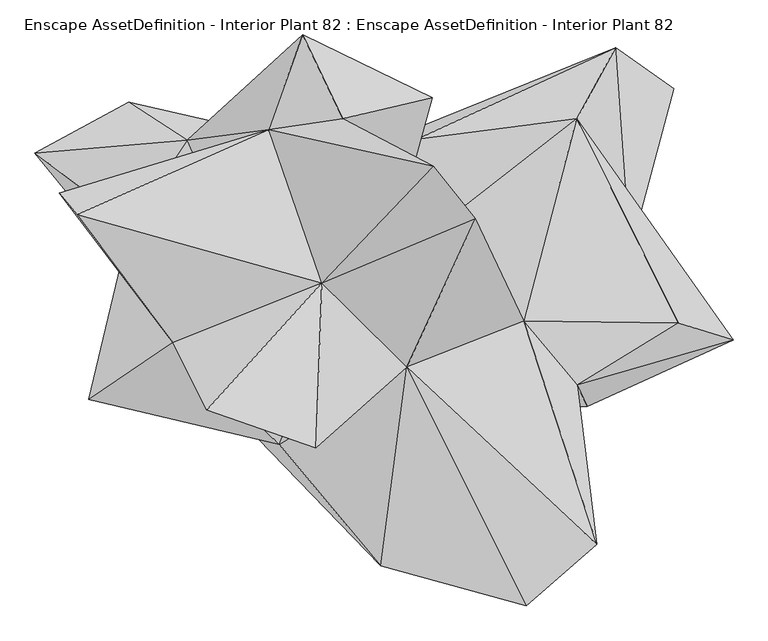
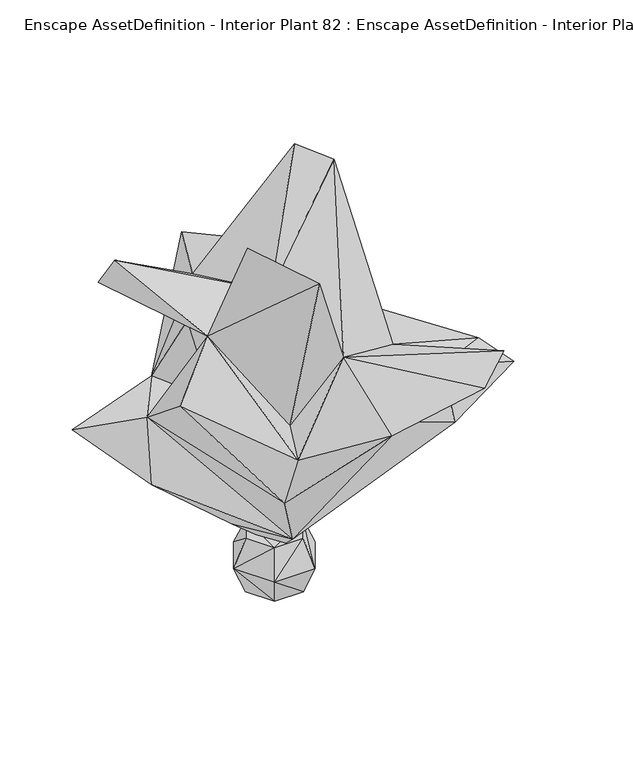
"""IFC4 building model written with IfcOpenShell, lengths in millimetres: geographic element geometry, Enscape AssetDefinition - Interior Plant 82 : Enscape AssetDefinition - Interior Plant 82."""

import ifcopenshell
import ifcopenshell.guid

model = None  # the IFC model being written
_history = None  # IfcOwnerHistory: only IFC2X3 demands one
_inside = {}  # id of a spatial element -> (the spatial element, [elements in it])
_under = {}  # id of a project, library or spatial element -> (it, [spatial elements below it])
_declared = {}  # id of a project -> (the project, [libraries it declares])
_typed = {}  # id of a type object -> (the type object, [elements of that type])
_made_of = {}  # id of a material, layer set ... -> (it, [elements and type objects made of it])


def new_model(schema):
    """Start an empty IFC model of exactly this schema.

    Asked for "IFC4X3", IfcOpenShell would pick the latest addendum, in which some entities
    have other attributes; the version numbers below select the first issue.
    IFC2X3 requires an IfcOwnerHistory on every rooted entity: one is made here for all.
    """
    global model, _history
    if schema == "IFC4X3":
        model = ifcopenshell.file(schema_version=(4, 3, 0, 0))
    else:
        model = ifcopenshell.file(schema=schema)
    _inside.clear()
    _under.clear()
    _declared.clear()
    _typed.clear()
    _made_of.clear()
    _history = None
    if model.schema == "IFC2X3":
        org = make("IfcOrganization", Name="unknown")
        user = make(
            "IfcPersonAndOrganization",
            ThePerson=make("IfcPerson", FamilyName="unknown"),
            TheOrganization=org,
        )
        app = make(
            "IfcApplication",
            ApplicationDeveloper=org,
            Version="unknown",
            ApplicationFullName="unknown",
            ApplicationIdentifier="unknown",
        )
        _history = make(
            "IfcOwnerHistory",
            OwningUser=user,
            OwningApplication=app,
            ChangeAction="ADDED",
            CreationDate=0,
        )
    return model


def make(cls, **values):
    """One entity of the class cls with the attributes given. An attribute that is None is left unset."""
    return model.create_entity(
        cls, **{name: value for name, value in values.items() if value is not None}
    )


def rooted(cls, **values):
    """An entity with a GlobalId (a new one), such as an element, a storey or a relation."""
    return make(cls, GlobalId=ifcopenshell.guid.new(), OwnerHistory=_history, **values)


def si_unit(unit_type, name, prefix=None):
    """IfcSIUnit, for example si_unit("LENGTHUNIT", "METRE", prefix="MILLI")."""
    return make("IfcSIUnit", UnitType=unit_type, Prefix=prefix, Name=name)


def assignment(units):
    """IfcUnitAssignment: the units of a project."""
    return None if units is None else make("IfcUnitAssignment", Units=units)


def point(xyz):
    """IfcCartesianPoint."""
    return None if xyz is None else make("IfcCartesianPoint", Coordinates=xyz)


def direction(xyz):
    """IfcDirection."""
    return None if xyz is None else make("IfcDirection", DirectionRatios=xyz)


def frame(location, z_axis=None, x_axis=None):
    """IfcAxis2Placement3D, a coordinate frame: its origin and axes. An axis left out is left unset."""
    return make(
        "IfcAxis2Placement3D",
        Location=point(location),
        Axis=direction(z_axis),
        RefDirection=direction(x_axis),
    )


def origin():
    """The frame at (0, 0, 0) with its axes left unset."""
    return frame((0.0, 0.0, 0.0))


def place(relative_to, where):
    """IfcLocalPlacement: puts the frame where relative to a parent placement (None: the world)."""
    return make(
        "IfcLocalPlacement", PlacementRelTo=relative_to, RelativePlacement=where
    )


def context(
    kind, dimensions, precision=None, world=None, true_north=None, identifier=None
):
    """IfcGeometricRepresentationContext, for example the 3D "Model" context."""
    return make(
        "IfcGeometricRepresentationContext",
        ContextIdentifier=identifier,
        ContextType=kind,
        CoordinateSpaceDimension=dimensions,
        Precision=precision,
        WorldCoordinateSystem=world,
        TrueNorth=true_north,
    )


def project(units=None, contexts=None):
    """IfcProject with its units and contexts."""
    return rooted(
        "IfcProject",
        Name="project",
        RepresentationContexts=contexts,
        UnitsInContext=assignment(units),
    )


def spatial(cls, under=None, at=None, **own):
    """A site, building, storey or space (cls), placed at a placement, below another one or the project."""
    s = rooted(cls, ObjectPlacement=at, **own)
    if under is not None:
        _under.setdefault(under.id(), (under, []))[1].append(s)
    return s


def faces_of(points, faces, orient=None, outer=None):
    """IfcFace entities. A face is a list of loops; a loop is a list of indices into points, from 0.

    orient and outer hold one flag for each loop. By default every Orientation is true, the
    first loop of a face is its IfcFaceOuterBound and the others are IfcFaceBound.
    """
    made = []
    for i, loops in enumerate(faces):
        bounds = []
        for j, loop in enumerate(loops):
            is_outer = j == 0 if outer is None else outer[i][j]
            bounds.append(
                make(
                    "IfcFaceOuterBound" if is_outer else "IfcFaceBound",
                    Bound=make("IfcPolyLoop", Polygon=[points[k] for k in loop]),
                    Orientation=True if orient is None else orient[i][j],
                )
            )
        made.append(make("IfcFace", Bounds=bounds))
    return made


def faceted_brep(points, faces, orient=None, outer=None, voids=None):
    """IfcFacetedBrep: a solid bounded by flat faces; with voids (closed shells), ...WithVoids."""
    shared = [point(p) for p in points]
    hull = make("IfcClosedShell", CfsFaces=faces_of(shared, faces, orient, outer))
    if voids is None:
        return make("IfcFacetedBrep", Outer=hull)
    return make(
        "IfcFacetedBrepWithVoids",
        Outer=hull,
        Voids=[
            make(cls, CfsFaces=faces_of(shared, fs, o, b)) for cls, fs, o, b in voids
        ],
    )


def shape(context_of_items, identifier, shape_type, items):
    """IfcShapeRepresentation: the items that make up one representation, for example the "Body"."""
    return make(
        "IfcShapeRepresentation",
        ContextOfItems=context_of_items,
        RepresentationIdentifier=identifier,
        RepresentationType=shape_type,
        Items=items,
    )


def source(mapping_origin, context_of_items, identifier, shape_type, items):
    """IfcRepresentationMap: a shape defined once, which mapped items show again and again."""
    return make(
        "IfcRepresentationMap",
        MappingOrigin=mapping_origin,
        MappedRepresentation=shape(context_of_items, identifier, shape_type, items),
    )


def transform(
    local_origin,
    x_axis=None,
    y_axis=None,
    z_axis=None,
    scale=None,
    scale2=None,
    scale3=None,
    uniform=True,
):
    """IfcCartesianTransformationOperator3D, or its non-uniform kind. x_axis, y_axis, z_axis: its Axis1, 2, 3."""
    if uniform:
        return make(
            "IfcCartesianTransformationOperator3D",
            Axis1=direction(x_axis),
            Axis2=direction(y_axis),
            LocalOrigin=point(local_origin),
            Scale=scale,
            Axis3=direction(z_axis),
        )
    return make(
        "IfcCartesianTransformationOperator3DnonUniform",
        Axis1=direction(x_axis),
        Axis2=direction(y_axis),
        LocalOrigin=point(local_origin),
        Scale=scale,
        Axis3=direction(z_axis),
        Scale2=scale2,
        Scale3=scale3,
    )


def mapped(mapping_source, mapping_target):
    """IfcMappedItem: shows the shape of a source again, moved by a transform."""
    return make(
        "IfcMappedItem", MappingSource=mapping_source, MappingTarget=mapping_target
    )


def made_of(thing, what):
    """Note that an element or type object is made of a material, layer set ...; save() writes the relation."""
    if what is not None:
        _made_of.setdefault(what.id(), (what, []))[1].append(thing)
    return thing


def element(
    cls,
    number,
    at=None,
    inside=None,
    cuts=None,
    type_object=None,
    material=None,
    context=None,
    identifier="Body",
    shape_type=None,
    held_by="IfcProductDefinitionShape",
    body=None,
    shapes=None,
    **own,
):
    """One element of the class cls, such as IfcWall. Its Tag is "e" and its number.

    at: its placement. inside: the storey or other place that contains it. cuts: it is an
    opening in that element (IfcRelVoidsElement). A single representation is given by context,
    identifier, shape_type and body (its items); several are given by shapes. held_by: the class
    of the entity that holds the representations. save() writes the other relations.
    """
    e = rooted(cls, Tag="e%d" % number, ObjectPlacement=at, **own)
    if body is not None:
        shapes = [shape(context, identifier, shape_type, body)]
    if shapes is not None:
        e.Representation = make(held_by, Representations=shapes)
    if inside is not None:
        _inside.setdefault(inside.id(), (inside, []))[1].append(e)
    if cuts is not None:
        rooted(
            "IfcRelVoidsElement", RelatingBuildingElement=cuts, RelatedOpeningElement=e
        )
    if type_object is not None:
        _typed.setdefault(type_object.id(), (type_object, []))[1].append(e)
    return made_of(e, material)


def aggregate(whole, parts):
    """IfcRelAggregates: a whole, such as a stair, and the parts it consists of."""
    return rooted("IfcRelAggregates", RelatingObject=whole, RelatedObjects=parts)


def save(model, path):
    """Write the relations noted so far, then the file.

    IfcRelAggregates (storeys below a building ...), IfcRelContainedInSpatialStructure (elements
    in a storey), IfcRelDefinesByType, IfcRelAssociatesMaterial and IfcRelDeclares: one each for
    every whole, place, type object, material and project.
    """
    for whole, parts in _under.values():
        aggregate(whole, parts)
    for where, things in _inside.values():
        rooted(
            "IfcRelContainedInSpatialStructure",
            RelatedElements=things,
            RelatingStructure=where,
        )
    for kind, things in _typed.values():
        rooted("IfcRelDefinesByType", RelatedObjects=things, RelatingType=kind)
    for what, things in _made_of.values():
        rooted("IfcRelAssociatesMaterial", RelatedObjects=things, RelatingMaterial=what)
    for by, libraries in _declared.values():
        rooted("IfcRelDeclares", RelatingContext=by, RelatedDefinitions=libraries)
    model.write(path)


def enscape_assetdefinition_interior_plant_82_enscape_8433f75e(model_context):
    return source(origin(), model_context, "Body", "Brep", [
        faceted_brep([(735.0116968, -318.7362254, 795.3213453), (706.5727115, -259.3172193, 1075.8484602), (161.2018347, -348.4452069, 1016.0889626), (564.446032, -874.9197125, 1374.642849), (1141.2123442, -134.2217028, 869.3851233), (988.8581634, -85.9468207, 1019.1442966), (557.1710467, -81.0602233, 1132.3589087), (761.1840963, -703.5294175, 1404.5225382), (231.1289012, -209.1811597, 1255.1248074), (158.2113653, -764.37819, 1195.3663826), (171.8486995, 67.4867779, 918.2930589), (705.3715587, 483.4187627, 965.4536247), (422.6488173, 204.8187554, 2000.9071827), (853.5721302, 108.39881, 806.9327474), (813.3470416, 682.2965145, 717.2935009), (260.7690096, 426.635772, 926.4507294), (527.5309682, 156.6147804, 699.9837756), (975.4884839, 566.8943524, 610.2516651), (82.9283893, 385.8525455, 448.3778477), (94.4439471, 112.8041372, 339.0694261), (198.9346743, -85.9617889, 386.7382109), (-65.2731284, -272.8257477, 418.4991121), (22.8144433, -17.7850612, 198.3265877), (44.5814729, 78.9574012, 213.2669538), (-66.6300729, 104.0773541, 320.8110631), (-202.8367668, 18.7665727, 369.6550727), (-569.1559315, 97.1957743, 663.4680629), (-539.51478, 186.3247752, 963.4975791), (-805.5618405, 388.1660402, 866.6912317), (-544.5172191, 529.5339227, 784.2930555), (-381.4761639, 424.0007401, 986.2092137), (53.288281, 228.5088748, 747.1732497), (-58.4404804, 717.4323201, 1468.1231976), (-154.193446, 453.7097812, 1437.0284081), (-243.1137562, 126.9057691, 989.7308946), (-302.3939729, 245.7437813, 1363.1821871), (53.288281, 483.4187627, 1546.5364456), (301.7399609, 542.8377986, 1314.8844242), (305.3165376, 351.7761528, 2036.3175869), (-5.9919241, 25.1219478, 1553.920269), (-22.2702678, -434.8293841, 1875.4742146), (-326.6672194, -329.4409811, 2108.2386971), (-420.9543765, -141.0383731, 1553.920269), (-687.7163649, 216.0337865, 1841.3459063), (-35.6320292, -199.8982131, 974.4919538), (-124.5533451, -424.8614609, 956.3304782), (-183.8335395, -407.8642428, 735.9183431), (-654.8750997, -300.4279435, 1355.7264805), (-737.390101, 275.4527628, 1703.3179998)], [[[0, 1, 2]], [[1, 3, 2]], [[0, 4, 1]], [[4, 5, 1]], [[1, 6, 7]], [[3, 1, 7]], [[5, 6, 1]], [[8, 9, 3]], [[9, 2, 3]], [[8, 3, 7]], [[6, 8, 7]], [[10, 6, 11]], [[10, 12, 6]], [[6, 12, 8]], [[6, 5, 11]], [[4, 11, 5]], [[13, 11, 4]], [[14, 11, 13]], [[14, 15, 11]], [[15, 10, 11]], [[16, 13, 0]], [[17, 13, 16]], [[17, 14, 13]], [[0, 13, 4]], [[18, 14, 17]], [[18, 15, 14]], [[18, 17, 16]], [[18, 16, 19]], [[16, 20, 19]], [[20, 16, 0]], [[20, 0, 21]], [[0, 2, 21]], [[20, 22, 23]], [[20, 21, 22]], [[20, 23, 19]], [[18, 19, 24]], [[24, 19, 23]], [[22, 25, 23]], [[23, 25, 24]], [[25, 22, 21]], [[25, 21, 26]], [[25, 26, 24]], [[18, 24, 26]], [[21, 27, 26]], [[26, 27, 28]], [[28, 29, 26]], [[18, 26, 29]], [[28, 30, 29]], [[30, 28, 27]], [[29, 30, 18]], [[18, 30, 31]], [[15, 18, 31]], [[31, 30, 32]], [[31, 32, 15]], [[30, 33, 32]], [[30, 27, 34]], [[34, 35, 30]], [[35, 33, 30]], [[32, 33, 36]], [[15, 32, 37]], [[32, 36, 37]], [[15, 37, 10]], [[10, 37, 36]], [[36, 38, 10]], [[33, 38, 36]], [[10, 38, 12]], [[39, 38, 33]], [[39, 12, 38]], [[8, 12, 39]], [[39, 40, 8]], [[39, 41, 40]], [[42, 41, 39]], [[33, 43, 39]], [[42, 39, 43]], [[44, 8, 40]], [[44, 45, 8]], [[8, 45, 9]], [[44, 40, 42]], [[42, 40, 41]], [[45, 44, 42]], [[46, 45, 47]], [[47, 45, 42]], [[9, 45, 46]], [[21, 2, 9]], [[21, 9, 46]], [[46, 47, 27]], [[21, 46, 27]], [[42, 27, 47]], [[27, 42, 34]], [[34, 42, 35]], [[42, 48, 35]], [[35, 48, 33]], [[48, 43, 33]], [[48, 42, 43]]]),
        faceted_brep([(147.8780061, -0.2216642, -0.0009985), (73.9839375, -128.2097995, -0.0009985), (-73.8032088, -128.2097995, -0.0009985), (-103.4922376, -179.6319187, 143.5305923), (103.6729738, -179.6319187, 143.5305923), (-207.0743442, -0.2216642, 143.5305923), (-147.6972848, -0.2216642, -0.0009985), (-73.8032088, 127.7664751, -0.0009985), (207.2550803, -0.2216642, 143.5305923), (73.9839375, 127.7664751, -0.0009985), (73.0932876, -126.6661435, 287.0631814), (146.095708, -0.2216642, 287.0631814), (103.6729738, 179.1885793, 143.5305923), (73.0932876, 126.2228191, 287.0631814), (-103.4922376, 179.1885793, 143.5305923), (-72.9125589, 126.2228191, 287.0631814), (-145.9149867, -0.2216642, 287.0631814), (-72.9125589, -126.6661435, 287.0631814)], [[[0, 1, 2]], [[3, 2, 1]], [[4, 1, 0]], [[3, 1, 4]], [[5, 6, 2]], [[7, 2, 6]], [[0, 2, 7]], [[5, 2, 3]], [[8, 0, 9]], [[0, 7, 9]], [[4, 0, 8]], [[3, 4, 10]], [[4, 8, 11]], [[4, 11, 10]], [[8, 12, 13]], [[8, 9, 12]], [[8, 13, 11]], [[12, 9, 7]], [[14, 7, 6]], [[12, 7, 14]], [[14, 6, 5]], [[12, 14, 15]], [[14, 5, 16]], [[14, 16, 15]], [[12, 15, 13]], [[15, 11, 13]], [[17, 10, 11]], [[17, 11, 15]], [[3, 10, 17]], [[5, 3, 17]], [[17, 15, 16]], [[5, 17, 16]]]),
    ])


if __name__ == "__main__":
    model = new_model("IFC4")
    model_context = context("Model", 3, world=origin())
    ifc_project = project(units=[si_unit("LENGTHUNIT", "METRE", prefix="MILLI")], contexts=[model_context])
    site = spatial("IfcSite", under=ifc_project)
    building = spatial("IfcBuilding", under=site)
    placement = place(None, origin())
    enscape_assetdefinition_interior_plant_82_enscape_shape = enscape_assetdefinition_interior_plant_82_enscape_8433f75e(model_context)
    element("IfcGeographicElement", 1, ObjectType="Enscape AssetDefinition - Interior Plant 82 : Enscape AssetDefinition - Interior Plant 82", at=placement, inside=building, context=model_context, shape_type="MappedRepresentation", body=[
        mapped(enscape_assetdefinition_interior_plant_82_enscape_shape, transform((0.0, 0.0, 0.0), x_axis=(1.0, 0.0, 0.0), y_axis=(0.0, 1.0, 0.0), z_axis=(0.0, 0.0, 1.0))),
    ])
    save(model, "model.ifc")
